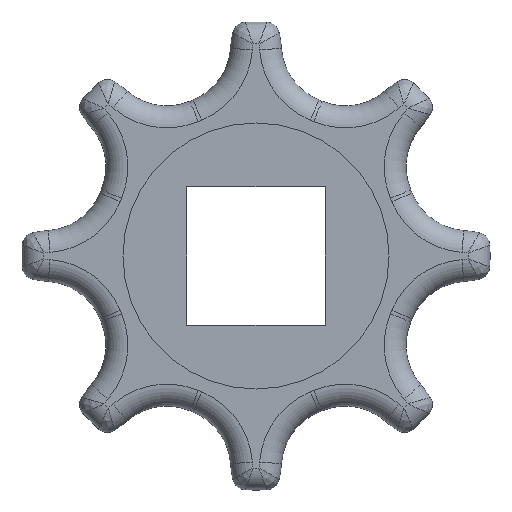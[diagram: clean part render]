
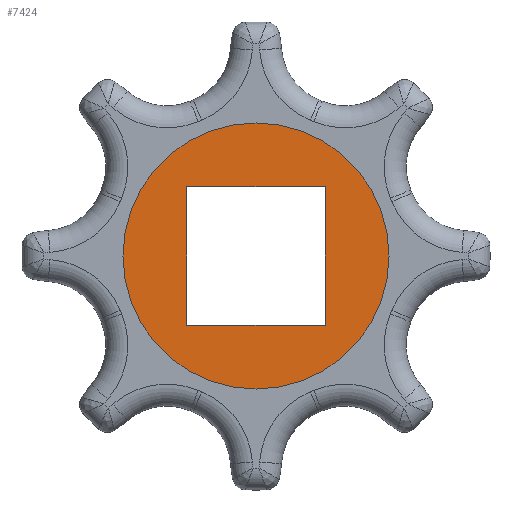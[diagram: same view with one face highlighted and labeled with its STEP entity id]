
A CAD part, left-side view. The second image highlights one B-rep face of the part: STEP entity #7424.
In plain terms, the highlighted planar face has unit normal (-1, 0, 0).
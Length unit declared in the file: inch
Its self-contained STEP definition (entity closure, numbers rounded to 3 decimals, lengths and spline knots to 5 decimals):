
#2469=CARTESIAN_POINT('',(-0.75,0.,0.));
#2470=DIRECTION('',(1.,0.,0.));
#2471=DIRECTION('',(0.,0.,-1.));
#2472=AXIS2_PLACEMENT_3D('',#2469,#2470,#2471);
#2474=CARTESIAN_POINT('',(-0.75,0.,0.));
#2475=DIRECTION('',(1.,0.,0.));
#2476=DIRECTION('',(0.,0.,1.));
#2477=AXIS2_PLACEMENT_3D('',#2474,#2475,#2476);
#2479=DIRECTION('',(0.,0.,-1.));
#2480=VECTOR('',#2479,1.575);
#2481=CARTESIAN_POINT('',(-0.75,-0.7875,0.7875));
#2482=LINE('',#2481,#2480);
#2483=DIRECTION('',(0.,-1.,0.));
#2484=VECTOR('',#2483,1.575);
#2485=CARTESIAN_POINT('',(-0.75,0.7875,0.7875));
#2486=LINE('',#2485,#2484);
#2487=DIRECTION('',(0.,0.,1.));
#2488=VECTOR('',#2487,1.575);
#2489=CARTESIAN_POINT('',(-0.75,0.7875,-0.7875));
#2490=LINE('',#2489,#2488);
#2491=DIRECTION('',(0.,1.,0.));
#2492=VECTOR('',#2491,1.575);
#2493=CARTESIAN_POINT('',(-0.75,-0.7875,-0.7875));
#2494=LINE('',#2493,#2492);
#2538=CARTESIAN_POINT('',(-0.75,-0.7875,0.7875));
#2540=VERTEX_POINT('',#2538);
#2542=CARTESIAN_POINT('',(-0.75,-0.7875,-0.7875));
#2544=VERTEX_POINT('',#2542);
#2546=CARTESIAN_POINT('',(-0.75,0.7875,-0.7875));
#2548=VERTEX_POINT('',#2546);
#2550=CARTESIAN_POINT('',(-0.75,0.7875,0.7875));
#2552=VERTEX_POINT('',#2550);
#2553=CARTESIAN_POINT('',(-0.75,0.,-1.51421));
#2554=CARTESIAN_POINT('',(-0.75,0.,1.51421));
#2555=VERTEX_POINT('',#2553);
#2556=VERTEX_POINT('',#2554);
#7405=CARTESIAN_POINT('',(-0.75,0.,0.));
#7406=DIRECTION('',(1.,0.,0.));
#7407=DIRECTION('',(0.,0.,-1.));
#7408=AXIS2_PLACEMENT_3D('',#7405,#7406,#7407);
#7409=PLANE('',#7408);
#7410=ORIENTED_EDGE('',*,*,#7357,.T.);
#7411=ORIENTED_EDGE('',*,*,#7386,.T.);
#7412=EDGE_LOOP('',(#7410,#7411));
#7413=FACE_OUTER_BOUND('',#7412,.F.);
#7415=ORIENTED_EDGE('',*,*,#7414,.F.);
#7417=ORIENTED_EDGE('',*,*,#7416,.F.);
#7419=ORIENTED_EDGE('',*,*,#7418,.F.);
#7421=ORIENTED_EDGE('',*,*,#7420,.F.);
#7422=EDGE_LOOP('',(#7415,#7417,#7419,#7421));
#7423=FACE_BOUND('',#7422,.F.);
#7424=ADVANCED_FACE('',(#7413,#7423),#7409,.F.);
#2473=CIRCLE('',#2472,1.51421);
#2478=CIRCLE('',#2477,1.51421);
#7357=EDGE_CURVE('',#2555,#2556,#2473,.T.);
#7386=EDGE_CURVE('',#2556,#2555,#2478,.T.);
#7414=EDGE_CURVE('',#2540,#2544,#2482,.T.);
#7416=EDGE_CURVE('',#2552,#2540,#2486,.T.);
#7418=EDGE_CURVE('',#2548,#2552,#2490,.T.);
#7420=EDGE_CURVE('',#2544,#2548,#2494,.T.);
